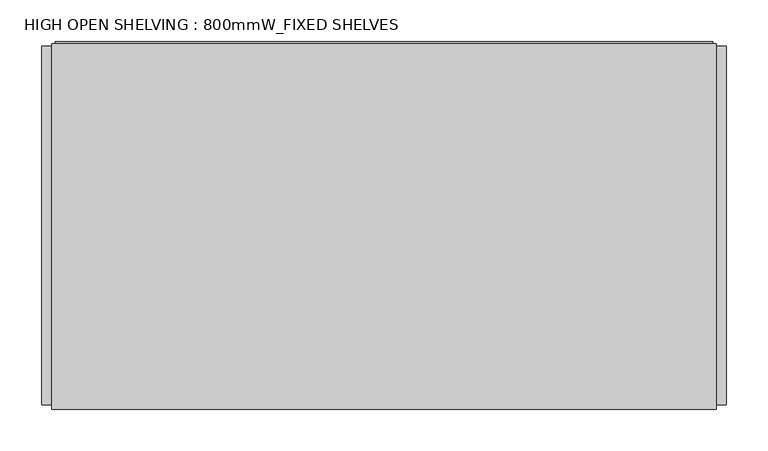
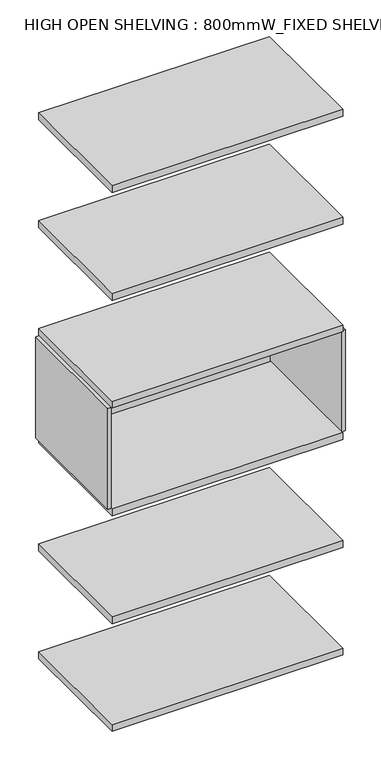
"""IFC4 building model written with IfcOpenShell, lengths in millimetres: furniture geometry, HIGH OPEN SHELVING : 800mmW_FIXED SHELVES."""

from ifc_helpers import new_model, si_unit, frame, origin, place, context, project, spatial, polyline, outline, extrude, source, transform, mapped, element, save


def high_open_shelving_800mmw_fixed_shelves_b1dee84b(model_context):
    return source(origin(), model_context, "Body", "SweptSolid", [
        extrude(outline(polyline([(412.0, -214.7757931), (400.0, -214.7757931), (400.0, 217.1931665), (412.0, 217.1931665), (412.0, -214.7757931)])), frame((0.0, 0.0, 808.0), z_axis=(0.0, 0.0, 1.0), x_axis=(1.0, 0.0, 0.0)), (0.0, 0.0, 1.0), 370.0),
        extrude(outline(polyline([(400.0, 220.0), (400.0, -220.0), (-400.0, -220.0), (-400.0, 220.0), (400.0, 220.0)])), frame((0.0, 0.0, -7.0), z_axis=(0.0, 0.0, 1.0), x_axis=(1.0, 0.0, 0.0)), (0.0, 0.0, 1.0), 25.0),
        extrude(outline(polyline([(400.0, 220.0), (400.0, -220.0), (-400.0, -220.0), (-400.0, 220.0), (400.0, 220.0)])), frame((0.0, 0.0, 388.0), z_axis=(0.0, 0.0, 1.0), x_axis=(1.0, 0.0, 0.0)), (0.0, 0.0, 1.0), 25.0),
        extrude(outline(polyline([(400.0, 220.0), (400.0, -220.0), (-400.0, -220.0), (-400.0, 220.0), (400.0, 220.0)])), frame((0.0, 0.0, 783.0), z_axis=(0.0, 0.0, 1.0), x_axis=(1.0, 0.0, 0.0)), (0.0, 0.0, 1.0), 25.0),
        extrude(outline(polyline([(400.0, 220.0), (400.0, -220.0), (-400.0, -220.0), (-400.0, 220.0), (400.0, 220.0)])), frame((0.0, 0.0, 1178.0), z_axis=(0.0, 0.0, 1.0), x_axis=(1.0, 0.0, 0.0)), (0.0, 0.0, 1.0), 25.0),
        extrude(outline(polyline([(400.0, 220.0), (400.0, -220.0), (-400.0, -220.0), (-400.0, 220.0), (400.0, 220.0)])), frame((0.0, 0.0, 1573.0), z_axis=(0.0, 0.0, 1.0), x_axis=(1.0, 0.0, 0.0)), (0.0, 0.0, 1.0), 25.0),
        extrude(outline(polyline([(-400.0, -214.7757931), (-412.0, -214.7757931), (-412.0, 217.1931665), (-400.0, 217.1931665), (-400.0, -214.7757931)])), frame((0.0, 0.0, 808.0), z_axis=(0.0, 0.0, 1.0), x_axis=(1.0, 0.0, 0.0)), (0.0, 0.0, 1.0), 370.0),
        extrude(outline(polyline([(395.4939356, 222.7282814), (395.4939356, 210.7282814), (-395.4939356, 210.7282814), (-395.4939356, 222.7282814), (395.4939356, 222.7282814)])), frame((0.0, 0.0, 808.0), z_axis=(0.0, 0.0, 1.0), x_axis=(1.0, 0.0, 0.0)), (0.0, 0.0, 1.0), 370.0),
        extrude(outline(polyline([(400.0, 220.0), (400.0, -220.0), (-400.0, -220.0), (-400.0, 220.0), (400.0, 220.0)])), frame((0.0, 0.0, 1967.9911043), z_axis=(0.0, 0.0, 1.0), x_axis=(1.0, 0.0, 0.0)), (0.0, 0.0, 1.0), 25.0),
    ])


if __name__ == "__main__":
    model = new_model("IFC4")
    model_context = context("Model", 3, world=origin())
    ifc_project = project(units=[si_unit("LENGTHUNIT", "METRE", prefix="MILLI")], contexts=[model_context])
    site = spatial("IfcSite", under=ifc_project)
    building = spatial("IfcBuilding", under=site)
    placement = place(None, origin())
    high_open_shelving_800mmw_fixed_shelves_shape = high_open_shelving_800mmw_fixed_shelves_b1dee84b(model_context)
    element("IfcFurniture", 1, ObjectType="HIGH OPEN SHELVING : 800mmW_FIXED SHELVES", at=placement, inside=building, context=model_context, shape_type="MappedRepresentation", body=[
        mapped(high_open_shelving_800mmw_fixed_shelves_shape, transform((0.0, 0.0, 0.0), x_axis=(1.0, 0.0, 0.0), y_axis=(0.0, 1.0, 0.0), z_axis=(0.0, 0.0, 1.0))),
    ])
    save(model, "model.ifc")
